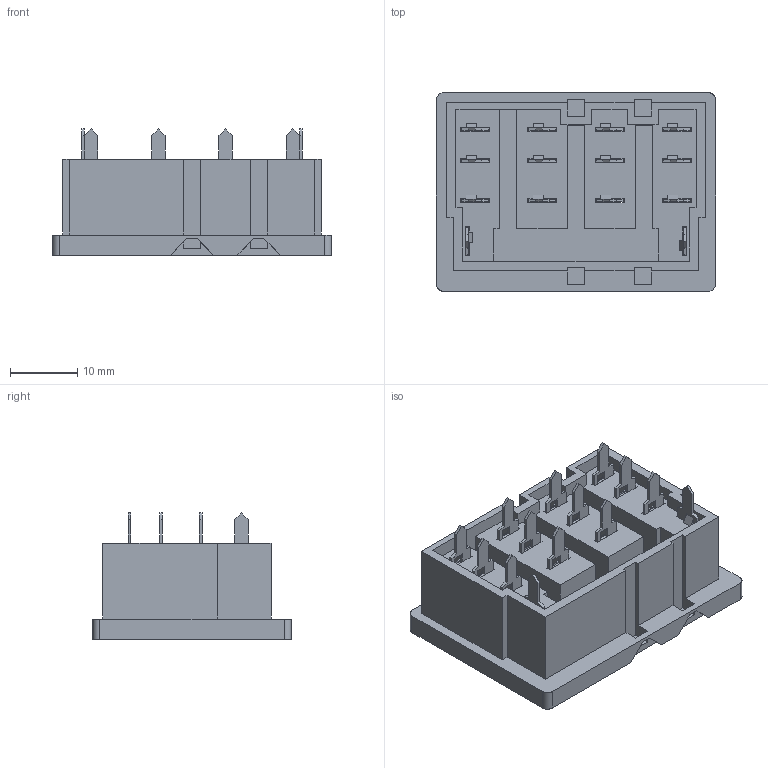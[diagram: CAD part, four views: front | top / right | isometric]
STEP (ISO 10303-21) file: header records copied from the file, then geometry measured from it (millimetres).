
FILE_DESCRIPTION(('STEP AP214'),'2;1');
FILE_NAME('96.14-catalogo.stp','2010-11-29T10:44:13',(''),(''),'2007.1.106','THINKDESIGN','');
FILE_SCHEMA(('AUTOMOTIVE_DESIGN'));
Products named in the file (1): None
Bounding box: 41.5 x 29.5 x 18.8 mm (x, y, z)
Surface area: 10749.3 mm2 (no closed solid volume)
Topology: 0 solids, 0 shells, 939 faces, 5205 edges, 5205 vertices
Faces by surface type: plane 798, bspline 81, cylinder 60
Entity records: 51399 total; most frequent: CARTESIAN_POINT 12556, DIRECTION 6669, COMPOSITE_CURVE_SEGMENT 5205, TRIMMED_CURVE 4833, VECTOR 4713, LINE 4713, AXIS2_PLACEMENT_3D 978, OUTER_BOUNDARY_CURVE 939
